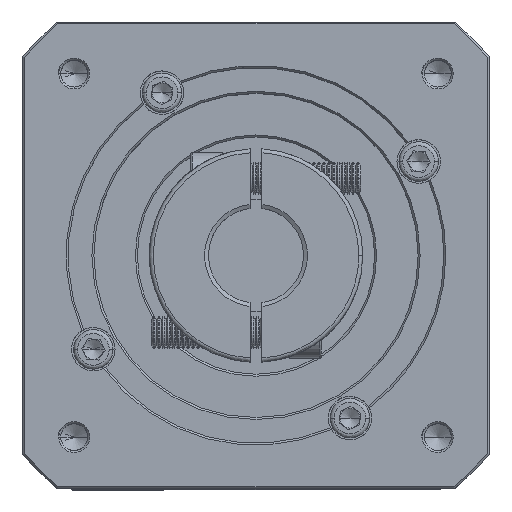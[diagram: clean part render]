
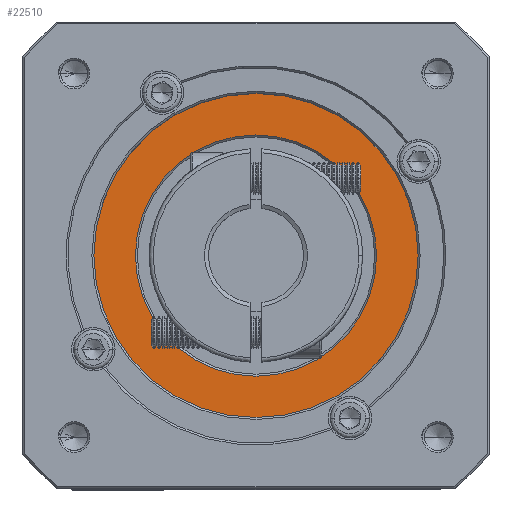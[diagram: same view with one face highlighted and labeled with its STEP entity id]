
A CAD part, top view. The second image highlights one B-rep face of the part: STEP entity #22510.
In plain terms, the highlighted planar face has unit normal (0, 0, 1).
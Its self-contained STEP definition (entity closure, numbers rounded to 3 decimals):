
#2076 = EDGE_LOOP ( 'NONE', ( #112363, #45392 ) ) ;
#3127 = CARTESIAN_POINT ( 'NONE',  ( 74.211, 101.778, -2.67 ) ) ;
#3640 = EDGE_CURVE ( 'NONE', #72974, #65120, #77034, .T. ) ;
#4688 = DIRECTION ( 'NONE',  ( 1., 0., 0. ) ) ;
#13012 = DIRECTION ( 'NONE',  ( 1., 0., 0. ) ) ;
#19371 = VERTEX_POINT ( 'NONE', #91580 ) ;
#21543 = AXIS2_PLACEMENT_3D ( 'NONE', #38496, #38871, #90945 ) ;
#22387 = EDGE_LOOP ( 'NONE', ( #99336, #94153 ) ) ;
#22510 = ADVANCED_FACE ( 'NONE', ( #72791, #33914 ), #92223, .T. ) ;
#23254 = CARTESIAN_POINT ( 'NONE',  ( 74.211, 101.778, -2.67 ) ) ;
#31410 = VERTEX_POINT ( 'NONE', #112464 ) ;
#32810 = CIRCLE ( 'NONE', #93499, 41. ) ;
#33914 = FACE_BOUND ( 'NONE', #2076, .T. ) ;
#38496 = CARTESIAN_POINT ( 'NONE',  ( 74.211, 101.778, -2.67 ) ) ;
#38871 = DIRECTION ( 'NONE',  ( 0., 0., -1. ) ) ;
#39499 = DIRECTION ( 'NONE',  ( 0., 0., 1. ) ) ;
#41858 = DIRECTION ( 'NONE',  ( 0., -1., 0. ) ) ;
#44140 = DIRECTION ( 'NONE',  ( 0., 0., 1. ) ) ;
#45392 = ORIENTED_EDGE ( 'NONE', *, *, #109089, .T. ) ;
#45761 = CARTESIAN_POINT ( 'NONE',  ( 74.211, 132.278, -2.67 ) ) ;
#46533 = CARTESIAN_POINT ( 'NONE',  ( 74.211, 71.278, -2.67 ) ) ;
#52198 = AXIS2_PLACEMENT_3D ( 'NONE', #57354, #39499, #13012 ) ;
#56796 = AXIS2_PLACEMENT_3D ( 'NONE', #23254, #113452, #41858 ) ;
#57354 = CARTESIAN_POINT ( 'NONE',  ( 74.211, 101.778, -2.67 ) ) ;
#57397 = EDGE_CURVE ( 'NONE', #19371, #31410, #32810, .T. ) ;
#65120 = VERTEX_POINT ( 'NONE', #45761 ) ;
#72791 = FACE_OUTER_BOUND ( 'NONE', #22387, .T. ) ;
#72974 = VERTEX_POINT ( 'NONE', #46533 ) ;
#77034 = CIRCLE ( 'NONE', #21543, 30.5 ) ;
#82248 = EDGE_CURVE ( 'NONE', #31410, #19371, #83759, .T. ) ;
#83759 = CIRCLE ( 'NONE', #52198, 41. ) ;
#88054 = DIRECTION ( 'NONE',  ( 1., 0., 0. ) ) ;
#90423 = AXIS2_PLACEMENT_3D ( 'NONE', #3127, #92604, #4688 ) ;
#90945 = DIRECTION ( 'NONE',  ( 0., -1., 0. ) ) ;
#91580 = CARTESIAN_POINT ( 'NONE',  ( 115.211, 101.778, -2.67 ) ) ;
#92210 = CIRCLE ( 'NONE', #56796, 30.5 ) ;
#92223 = PLANE ( 'NONE',  #90423 ) ;
#92604 = DIRECTION ( 'NONE',  ( 0., 0., 1. ) ) ;
#93499 = AXIS2_PLACEMENT_3D ( 'NONE', #104871, #44140, #88054 ) ;
#94153 = ORIENTED_EDGE ( 'NONE', *, *, #82248, .T. ) ;
#99336 = ORIENTED_EDGE ( 'NONE', *, *, #57397, .T. ) ;
#104871 = CARTESIAN_POINT ( 'NONE',  ( 74.211, 101.778, -2.67 ) ) ;
#109089 = EDGE_CURVE ( 'NONE', #65120, #72974, #92210, .T. ) ;
#112363 = ORIENTED_EDGE ( 'NONE', *, *, #3640, .T. ) ;
#112464 = CARTESIAN_POINT ( 'NONE',  ( 33.211, 101.778, -2.67 ) ) ;
#113452 = DIRECTION ( 'NONE',  ( 0., 0., -1. ) ) ;
